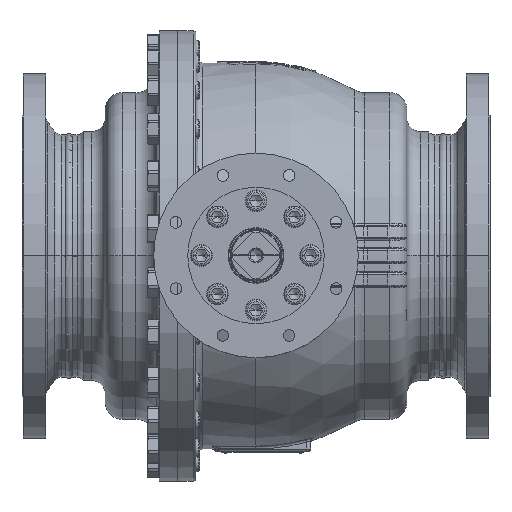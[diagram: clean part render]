
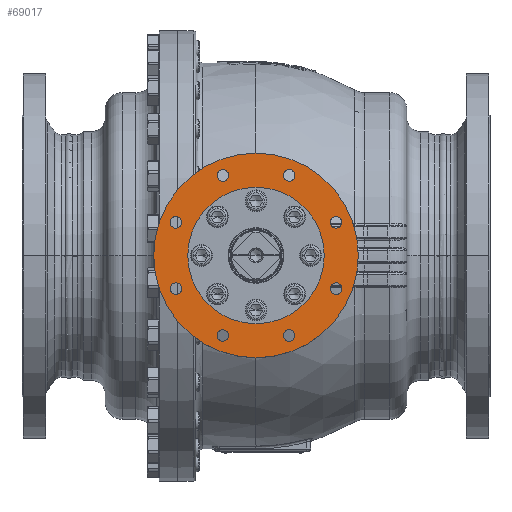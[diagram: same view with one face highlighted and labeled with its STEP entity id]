
A CAD part, top view. The second image highlights one B-rep face of the part: STEP entity #69017.
In plain terms, the highlighted planar face has unit normal (0, 0, 1).
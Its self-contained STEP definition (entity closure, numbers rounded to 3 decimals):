
#2970=CARTESIAN_POINT('',(0.,0.,440.));
#2971=DIRECTION('',(0.,0.,1.));
#2972=DIRECTION('',(1.,0.,0.));
#2973=AXIS2_PLACEMENT_3D('',#2970,#2971,#2972);
#2975=CARTESIAN_POINT('',(0.,0.,440.));
#2976=DIRECTION('',(0.,0.,-1.));
#2977=DIRECTION('',(1.,0.,0.));
#2978=AXIS2_PLACEMENT_3D('',#2975,#2976,#2977);
#2980=CARTESIAN_POINT('',(-117.333,48.601,440.));
#2981=DIRECTION('',(0.,0.,-1.));
#2982=DIRECTION('',(-1.,0.,0.));
#2983=AXIS2_PLACEMENT_3D('',#2980,#2981,#2982);
#2985=CARTESIAN_POINT('',(-117.333,48.601,440.));
#2986=DIRECTION('',(0.,0.,-1.));
#2987=DIRECTION('',(1.,0.,0.));
#2988=AXIS2_PLACEMENT_3D('',#2985,#2986,#2987);
#2990=CARTESIAN_POINT('',(-48.601,117.333,440.));
#2991=DIRECTION('',(0.,0.,-1.));
#2992=DIRECTION('',(-0.707,0.707,0.));
#2993=AXIS2_PLACEMENT_3D('',#2990,#2991,#2992);
#2995=CARTESIAN_POINT('',(-48.601,117.333,440.));
#2996=DIRECTION('',(0.,0.,-1.));
#2997=DIRECTION('',(0.707,-0.707,0.));
#2998=AXIS2_PLACEMENT_3D('',#2995,#2996,#2997);
#3000=CARTESIAN_POINT('',(48.601,117.333,440.));
#3001=DIRECTION('',(0.,0.,-1.));
#3002=DIRECTION('',(0.,1.,0.));
#3003=AXIS2_PLACEMENT_3D('',#3000,#3001,#3002);
#3005=CARTESIAN_POINT('',(48.601,117.333,440.));
#3006=DIRECTION('',(0.,0.,-1.));
#3007=DIRECTION('',(0.,-1.,0.));
#3008=AXIS2_PLACEMENT_3D('',#3005,#3006,#3007);
#3010=CARTESIAN_POINT('',(117.333,48.601,440.));
#3011=DIRECTION('',(0.,0.,-1.));
#3012=DIRECTION('',(0.707,0.707,0.));
#3013=AXIS2_PLACEMENT_3D('',#3010,#3011,#3012);
#3015=CARTESIAN_POINT('',(117.333,48.601,440.));
#3016=DIRECTION('',(0.,0.,-1.));
#3017=DIRECTION('',(-0.707,-0.707,0.));
#3018=AXIS2_PLACEMENT_3D('',#3015,#3016,#3017);
#3020=CARTESIAN_POINT('',(117.333,-48.601,440.));
#3021=DIRECTION('',(0.,0.,-1.));
#3022=DIRECTION('',(1.,0.,0.));
#3023=AXIS2_PLACEMENT_3D('',#3020,#3021,#3022);
#3025=CARTESIAN_POINT('',(117.333,-48.601,440.));
#3026=DIRECTION('',(0.,0.,-1.));
#3027=DIRECTION('',(-1.,0.,0.));
#3028=AXIS2_PLACEMENT_3D('',#3025,#3026,#3027);
#3030=CARTESIAN_POINT('',(48.601,-117.333,440.));
#3031=DIRECTION('',(0.,0.,-1.));
#3032=DIRECTION('',(0.707,-0.707,0.));
#3033=AXIS2_PLACEMENT_3D('',#3030,#3031,#3032);
#3035=CARTESIAN_POINT('',(48.601,-117.333,440.));
#3036=DIRECTION('',(0.,0.,-1.));
#3037=DIRECTION('',(-0.707,0.707,0.));
#3038=AXIS2_PLACEMENT_3D('',#3035,#3036,#3037);
#3040=CARTESIAN_POINT('',(-48.601,-117.333,440.));
#3041=DIRECTION('',(0.,0.,-1.));
#3042=DIRECTION('',(0.,-1.,0.));
#3043=AXIS2_PLACEMENT_3D('',#3040,#3041,#3042);
#3045=CARTESIAN_POINT('',(-48.601,-117.333,440.));
#3046=DIRECTION('',(0.,0.,-1.));
#3047=DIRECTION('',(0.,1.,0.));
#3048=AXIS2_PLACEMENT_3D('',#3045,#3046,#3047);
#3050=CARTESIAN_POINT('',(-117.333,-48.601,440.));
#3051=DIRECTION('',(0.,0.,-1.));
#3052=DIRECTION('',(-0.707,-0.707,0.));
#3053=AXIS2_PLACEMENT_3D('',#3050,#3051,#3052);
#3055=CARTESIAN_POINT('',(-117.333,-48.601,440.));
#3056=DIRECTION('',(0.,0.,-1.));
#3057=DIRECTION('',(0.707,0.707,0.));
#3058=AXIS2_PLACEMENT_3D('',#3055,#3056,#3057);
#3064=CARTESIAN_POINT('',(0.,0.,440.));
#3065=DIRECTION('',(0.,0.,-1.));
#3066=DIRECTION('',(1.,0.,0.));
#3067=AXIS2_PLACEMENT_3D('',#3064,#3065,#3066);
#3073=CARTESIAN_POINT('',(0.,0.,440.));
#3074=DIRECTION('',(0.,0.,1.));
#3075=DIRECTION('',(1.,0.,0.));
#3076=AXIS2_PLACEMENT_3D('',#3073,#3074,#3075);
#64926=CARTESIAN_POINT('',(100.,0.,440.));
#64928=VERTEX_POINT('',#64926);
#64930=CARTESIAN_POINT('',(-100.,0.,440.));
#64932=VERTEX_POINT('',#64930);
#65002=CARTESIAN_POINT('',(-125.833,48.601,440.));
#65003=CARTESIAN_POINT('',(-108.833,48.601,440.));
#65004=VERTEX_POINT('',#65002);
#65005=VERTEX_POINT('',#65003);
#65008=CARTESIAN_POINT('',(-54.611,123.343,440.));
#65009=CARTESIAN_POINT('',(-42.59,111.322,440.));
#65010=VERTEX_POINT('',#65008);
#65011=VERTEX_POINT('',#65009);
#65014=CARTESIAN_POINT('',(48.601,125.833,440.));
#65015=CARTESIAN_POINT('',(48.601,108.833,440.));
#65016=VERTEX_POINT('',#65014);
#65017=VERTEX_POINT('',#65015);
#65020=CARTESIAN_POINT('',(123.343,54.611,440.));
#65021=CARTESIAN_POINT('',(111.322,42.59,440.));
#65022=VERTEX_POINT('',#65020);
#65023=VERTEX_POINT('',#65021);
#65035=CARTESIAN_POINT('',(150.,0.,440.));
#65037=VERTEX_POINT('',#65035);
#65039=CARTESIAN_POINT('',(-150.,0.,440.));
#65041=VERTEX_POINT('',#65039);
#65050=CARTESIAN_POINT('',(125.833,-48.601,440.));
#65051=CARTESIAN_POINT('',(108.833,-48.601,440.));
#65052=VERTEX_POINT('',#65050);
#65053=VERTEX_POINT('',#65051);
#65058=CARTESIAN_POINT('',(54.611,-123.343,440.));
#65059=CARTESIAN_POINT('',(42.59,-111.322,440.));
#65060=VERTEX_POINT('',#65058);
#65061=VERTEX_POINT('',#65059);
#65066=CARTESIAN_POINT('',(-48.601,-125.833,440.));
#65067=CARTESIAN_POINT('',(-48.601,-108.833,440.));
#65068=VERTEX_POINT('',#65066);
#65069=VERTEX_POINT('',#65067);
#65074=CARTESIAN_POINT('',(-123.343,-54.611,440.));
#65075=CARTESIAN_POINT('',(-111.322,-42.59,440.));
#65076=VERTEX_POINT('',#65074);
#65077=VERTEX_POINT('',#65075);
#68954=CARTESIAN_POINT('',(0.,0.,440.));
#68955=DIRECTION('',(0.,0.,1.));
#68956=DIRECTION('',(1.,0.,0.));
#68957=AXIS2_PLACEMENT_3D('',#68954,#68955,#68956);
#68958=PLANE('',#68957);
#68959=ORIENTED_EDGE('',*,*,#68947,.F.);
#68960=ORIENTED_EDGE('',*,*,#68936,.T.);
#68961=EDGE_LOOP('',(#68959,#68960));
#68962=FACE_OUTER_BOUND('',#68961,.F.);
#68964=ORIENTED_EDGE('',*,*,#68963,.F.);
#68966=ORIENTED_EDGE('',*,*,#68965,.T.);
#68967=EDGE_LOOP('',(#68964,#68966));
#68968=FACE_BOUND('',#68967,.F.);
#68970=ORIENTED_EDGE('',*,*,#68969,.F.);
#68972=ORIENTED_EDGE('',*,*,#68971,.F.);
#68973=EDGE_LOOP('',(#68970,#68972));
#68974=FACE_BOUND('',#68973,.F.);
#68976=ORIENTED_EDGE('',*,*,#68975,.F.);
#68978=ORIENTED_EDGE('',*,*,#68977,.F.);
#68979=EDGE_LOOP('',(#68976,#68978));
#68980=FACE_BOUND('',#68979,.F.);
#68982=ORIENTED_EDGE('',*,*,#68981,.F.);
#68984=ORIENTED_EDGE('',*,*,#68983,.F.);
#68985=EDGE_LOOP('',(#68982,#68984));
#68986=FACE_BOUND('',#68985,.F.);
#68988=ORIENTED_EDGE('',*,*,#68987,.F.);
#68990=ORIENTED_EDGE('',*,*,#68989,.F.);
#68991=EDGE_LOOP('',(#68988,#68990));
#68992=FACE_BOUND('',#68991,.F.);
#68994=ORIENTED_EDGE('',*,*,#68993,.F.);
#68996=ORIENTED_EDGE('',*,*,#68995,.F.);
#68997=EDGE_LOOP('',(#68994,#68996));
#68998=FACE_BOUND('',#68997,.F.);
#69000=ORIENTED_EDGE('',*,*,#68999,.F.);
#69002=ORIENTED_EDGE('',*,*,#69001,.F.);
#69003=EDGE_LOOP('',(#69000,#69002));
#69004=FACE_BOUND('',#69003,.F.);
#69006=ORIENTED_EDGE('',*,*,#69005,.F.);
#69008=ORIENTED_EDGE('',*,*,#69007,.F.);
#69009=EDGE_LOOP('',(#69006,#69008));
#69010=FACE_BOUND('',#69009,.F.);
#69012=ORIENTED_EDGE('',*,*,#69011,.F.);
#69014=ORIENTED_EDGE('',*,*,#69013,.F.);
#69015=EDGE_LOOP('',(#69012,#69014));
#69016=FACE_BOUND('',#69015,.F.);
#69017=ADVANCED_FACE('',(#68962,#68968,#68974,#68980,#68986,#68992,#68998,
#69004,#69010,#69016),#68958,.T.);
#2974=CIRCLE('',#2973,150.);
#2979=CIRCLE('',#2978,150.);
#2984=CIRCLE('',#2983,8.5);
#2989=CIRCLE('',#2988,8.5);
#2994=CIRCLE('',#2993,8.5);
#2999=CIRCLE('',#2998,8.5);
#3004=CIRCLE('',#3003,8.5);
#3009=CIRCLE('',#3008,8.5);
#3014=CIRCLE('',#3013,8.5);
#3019=CIRCLE('',#3018,8.5);
#3024=CIRCLE('',#3023,8.5);
#3029=CIRCLE('',#3028,8.5);
#3034=CIRCLE('',#3033,8.5);
#3039=CIRCLE('',#3038,8.5);
#3044=CIRCLE('',#3043,8.5);
#3049=CIRCLE('',#3048,8.5);
#3054=CIRCLE('',#3053,8.5);
#3059=CIRCLE('',#3058,8.5);
#3068=CIRCLE('',#3067,100.);
#3077=CIRCLE('',#3076,100.);
#68936=EDGE_CURVE('',#65037,#65041,#2979,.T.);
#68947=EDGE_CURVE('',#65037,#65041,#2974,.T.);
#68963=EDGE_CURVE('',#64928,#64932,#3068,.T.);
#68965=EDGE_CURVE('',#64928,#64932,#3077,.T.);
#68969=EDGE_CURVE('',#65004,#65005,#2984,.T.);
#68971=EDGE_CURVE('',#65005,#65004,#2989,.T.);
#68975=EDGE_CURVE('',#65010,#65011,#2994,.T.);
#68977=EDGE_CURVE('',#65011,#65010,#2999,.T.);
#68981=EDGE_CURVE('',#65016,#65017,#3004,.T.);
#68983=EDGE_CURVE('',#65017,#65016,#3009,.T.);
#68987=EDGE_CURVE('',#65022,#65023,#3014,.T.);
#68989=EDGE_CURVE('',#65023,#65022,#3019,.T.);
#68993=EDGE_CURVE('',#65052,#65053,#3024,.T.);
#68995=EDGE_CURVE('',#65053,#65052,#3029,.T.);
#68999=EDGE_CURVE('',#65060,#65061,#3034,.T.);
#69001=EDGE_CURVE('',#65061,#65060,#3039,.T.);
#69005=EDGE_CURVE('',#65068,#65069,#3044,.T.);
#69007=EDGE_CURVE('',#65069,#65068,#3049,.T.);
#69011=EDGE_CURVE('',#65076,#65077,#3054,.T.);
#69013=EDGE_CURVE('',#65077,#65076,#3059,.T.);
